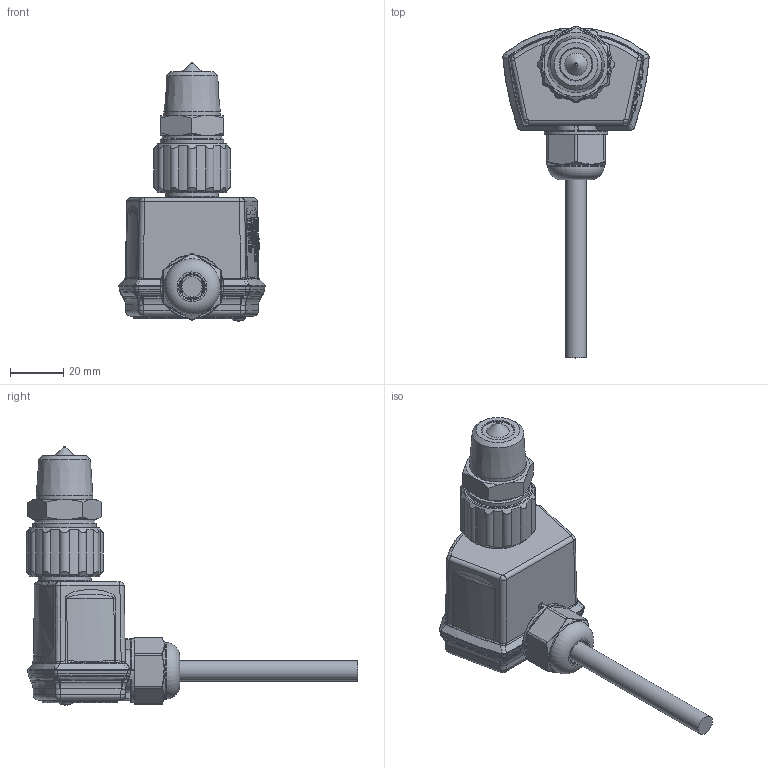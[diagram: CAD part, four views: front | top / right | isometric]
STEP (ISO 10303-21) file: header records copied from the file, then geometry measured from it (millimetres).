
FILE_DESCRIPTION(/* description */ (''),/* implementation_level */ '2;1');
FILE_NAME(/* name */ 'P:\ENC3\ENC3-1_2-NPT\ENC3-1_2-NPT.stp',/* time_stamp */ '2017-04-26T08:43:11+02:00',/* author */ ('neufeld'),/* organization */ (''),/* preprocessor_version */ 'ST-DEVELOPER v16.1',/* originating_system */ 'Autodesk Inventor 2016',/* authorisation */ '');
FILE_SCHEMA (('AUTOMOTIVE_DESIGN { 1 0 10303 214 3 1 1 }'));
Products named in the file (1): ENC3-1_2-NPT_AG-Kunde
Bounding box: 55.24 x 125.15 x 97.58 mm (x, y, z)
Volume: 3219.6 mm3; surface area: 38264.6 mm2
Topology: 2 solids, 3 shells, 2921 faces, 7672 edges, 4736 vertices
Faces by surface type: bspline 1490, cylinder 501, plane 382, torus 250, cone 232, sphere 66
Full cylindrical faces by diameter (mm): 1 x1, 3.25 x1, 5 x1, 7.65 x1, 9 x1, 12 x1, 12.25 x1, 17 x2, 18 x1, 19.4 x3, 20 x3, 21.25 x1, 21.34 x1, 22.5 x1, 23 x2, 24 x5
Entity records: 133456 total; most frequent: CARTESIAN_POINT 70352, ORIENTED_EDGE 14894, DIRECTION 9371, EDGE_CURVE 7446, VERTEX_POINT 4683, AXIS2_PLACEMENT_3D 3528, EDGE_LOOP 3107, B_SPLINE_CURVE_WITH_KNOTS 2970
